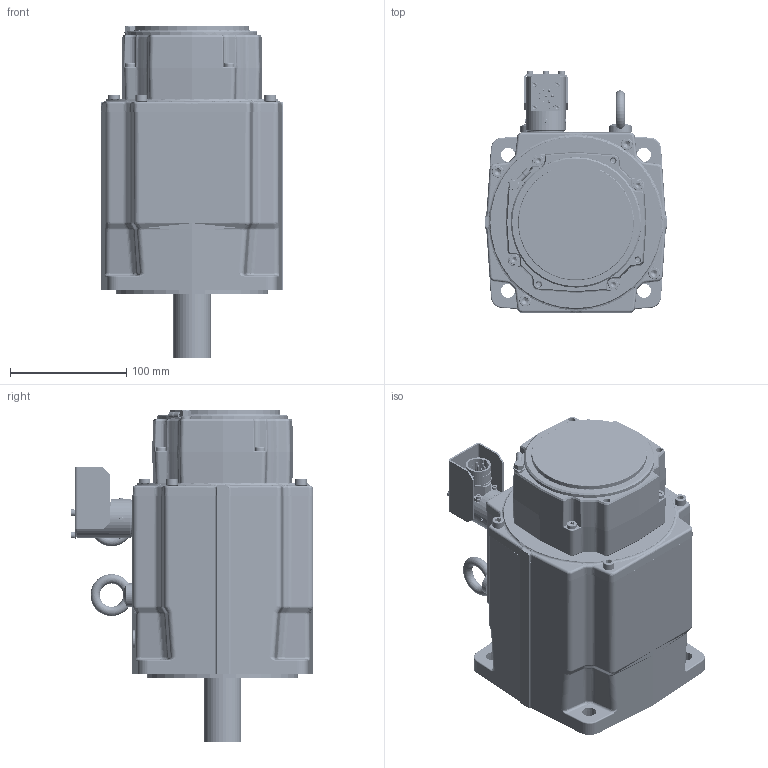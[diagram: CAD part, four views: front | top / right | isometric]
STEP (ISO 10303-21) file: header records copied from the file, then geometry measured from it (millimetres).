
FILE_DESCRIPTION((''),'2;1');
FILE_NAME('EY820EYR7010_ASM','2017-09-29T',('pf73167'),(''),'PRO/ENGINEER BY PARAMETRIC TECHNOLOGY CORPORATION, 2009400','PRO/ENGINEER BY PARAMETRIC TECHNOLOGY CORPORATION, 2009400','');
FILE_SCHEMA(('CONFIG_CONTROL_DESIGN'));
Length unit declared in the file: millimetre
Products named in the file (46): 344441P0017; 5116P1319; 1150P0512; 301026P0003; 344463P0001; 344232P0001; 344212P0003; 344232P0001_ASM; 220087P0301; 344461R0001_ASM; 5116P1327; 1711P0002; 1640P0001; 5340P0036; 344440P0001; 344231P0002; BOB_344465R2000; 344465R2000_ASM; 344466R2000_ASM; SURMOULAGE_344467R2001; 344467R2001_ASM; 5320P0029; 1150P0610; 5340P0071; 344191P0022; 1143P0515; 1190P0001; 6942P0012; 1642P0105; 6620P0014; 1145P0508; 345359P0002; 5340P0124; 5340P0125; 1150P0204; 345359P0001; 1170P0042; 220132P1010_0001; 220132P1010_0002; 220132P0111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
Assembly tree (83 placements, depth 5):
  EY820EYR7010_ASM
    344441P0017
    5116P1319
    1150P0512  x3
    301026P0003
    344461R0001_ASM
      344463P0001
      344232P0001_ASM
        344232P0001
        344212P0003  x2
      220087P0301  x10
    5116P1327
    1711P0002
    1640P0001  x3
    5340P0036
    344467R2001_ASM
      344440P0001
      344466R2000_ASM
        344465R2000_ASM
          344231P0002
          BOB_344465R2000
      SURMOULAGE_344467R2001
    5320P0029
    1150P0610  x4
    5340P0071
    344191P0022
    1143P0515  x4
    1190P0001  x2
    6942P0012
    1642P0105
    6620P0014
    1145P0508
    345359R1010_800_ASM
      345359P0002
      5340P0124
      5340P0125
      1150P0204  x8
      345359P0001
      1170P0042  x4
      220132P1010_ASM
        220132P1010_0001
        220132P1010_0002
        220132P0111  x4
        220132P0120  x3
      345359P0003
      1150P0305  x3
Bounding box: 157 x 207.7 x 285 mm (x, y, z)
Volume: 3052822.4 mm3; surface area: 915683 mm2
Topology: 82 solids, 105 shells, 5087 faces, 12277 edges, 7495 vertices
Faces by surface type: cylinder 1792, plane 1578, bspline 651, cone 611, torus 393, sphere 52, extrusion 10
Entity records: 144084 total; most frequent: CARTESIAN_POINT 50241, ORIENTED_EDGE 19648, DIRECTION 19248, EDGE_CURVE 9824, AXIS2_PLACEMENT_3D 7402, VERTEX_POINT 6127, EDGE_LOOP 4445, VECTOR 4444
